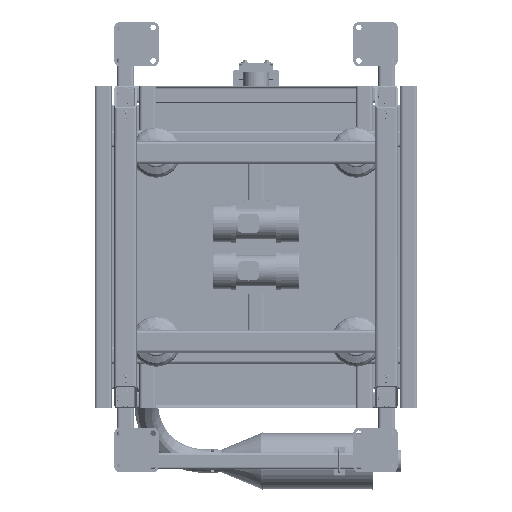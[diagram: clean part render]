
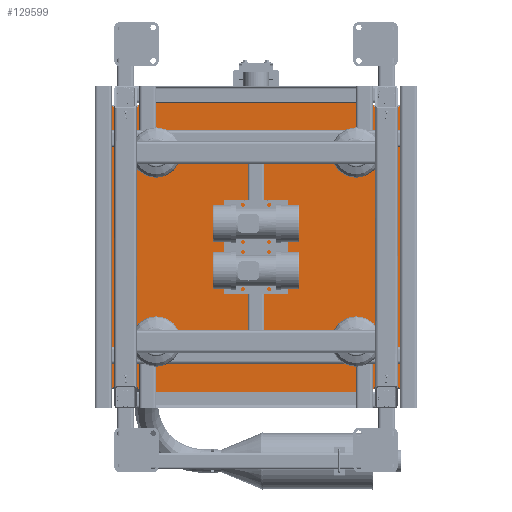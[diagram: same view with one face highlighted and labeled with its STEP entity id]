
A CAD part, front view. The second image highlights one B-rep face of the part: STEP entity #129599.
In plain terms, the highlighted planar face has unit normal (0, -1, 0).
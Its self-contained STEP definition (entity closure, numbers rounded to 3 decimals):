
#13528=CIRCLE('',#140009,1.);
#13530=CIRCLE('',#140013,1.);
#13532=CIRCLE('',#140017,1.);
#13534=CIRCLE('',#140021,1.);
#13536=CIRCLE('',#140025,1.);
#13538=CIRCLE('',#140029,1.);
#13540=CIRCLE('',#140033,1.);
#13542=CIRCLE('',#140037,1.);
#20927=FACE_OUTER_BOUND('',#29600,.T.);
#29600=EDGE_LOOP('',(#97238,#97239,#97240,#97241,#97242,#97243,#97244,#97245,
#97246,#97247,#97248,#97249,#97250,#97251,#97252,#97253,#97254,#97255,#97256,
#97257,#97258,#97259,#97260,#97261,#97262,#97263,#97264,#97265));
#39850=LINE('',#199740,#49647);
#39853=LINE('',#199751,#49650);
#39859=LINE('',#199767,#49656);
#39862=LINE('',#199778,#49659);
#39868=LINE('',#199794,#49665);
#39872=LINE('',#199806,#49669);
#39877=LINE('',#199821,#49674);
#39881=LINE('',#199833,#49678);
#39882=LINE('',#199836,#49679);
#39885=LINE('',#199842,#49682);
#39888=LINE('',#199848,#49685);
#39891=LINE('',#199854,#49688);
#39894=LINE('',#199860,#49691);
#39899=LINE('',#199869,#49696);
#39900=LINE('',#199872,#49697);
#39901=LINE('',#199873,#49698);
#39902=LINE('',#199874,#49699);
#39903=LINE('',#199876,#49700);
#39904=LINE('',#199877,#49701);
#39905=LINE('',#199878,#49702);
#49647=VECTOR('',#160788,3.);
#49650=VECTOR('',#160799,3.);
#49656=VECTOR('',#160813,3.);
#49659=VECTOR('',#160824,3.);
#49665=VECTOR('',#160838,3.);
#49669=VECTOR('',#160850,3.);
#49674=VECTOR('',#160863,3.);
#49678=VECTOR('',#160875,3.);
#49679=VECTOR('',#160878,3.);
#49682=VECTOR('',#160883,3.);
#49685=VECTOR('',#160888,3.);
#49688=VECTOR('',#160893,3.);
#49691=VECTOR('',#160898,3.);
#49696=VECTOR('',#160905,3.);
#49697=VECTOR('',#160908,3.);
#49698=VECTOR('',#160909,58.);
#49699=VECTOR('',#160910,42.);
#49700=VECTOR('',#160911,58.);
#49701=VECTOR('',#160912,3.);
#49702=VECTOR('',#160913,42.);
#59895=VERTEX_POINT('',#199730);
#59896=VERTEX_POINT('',#199732);
#59898=VERTEX_POINT('',#199738);
#59901=VERTEX_POINT('',#199745);
#59902=VERTEX_POINT('',#199747);
#59905=VERTEX_POINT('',#199757);
#59906=VERTEX_POINT('',#199759);
#59908=VERTEX_POINT('',#199765);
#59911=VERTEX_POINT('',#199772);
#59912=VERTEX_POINT('',#199774);
#59915=VERTEX_POINT('',#199784);
#59916=VERTEX_POINT('',#199786);
#59918=VERTEX_POINT('',#199792);
#59920=VERTEX_POINT('',#199798);
#59922=VERTEX_POINT('',#199804);
#59925=VERTEX_POINT('',#199811);
#59926=VERTEX_POINT('',#199813);
#59928=VERTEX_POINT('',#199819);
#59930=VERTEX_POINT('',#199825);
#59932=VERTEX_POINT('',#199831);
#59933=VERTEX_POINT('',#199835);
#59935=VERTEX_POINT('',#199841);
#59937=VERTEX_POINT('',#199847);
#59939=VERTEX_POINT('',#199853);
#59941=VERTEX_POINT('',#199859);
#59944=VERTEX_POINT('',#199867);
#59945=VERTEX_POINT('',#199871);
#59946=VERTEX_POINT('',#199875);
#73742=EDGE_CURVE('',#59895,#59896,#13528,.T.);
#73746=EDGE_CURVE('',#59895,#59898,#39850,.T.);
#73749=EDGE_CURVE('',#59901,#59902,#13530,.T.);
#73751=EDGE_CURVE('',#59901,#59896,#39853,.T.);
#73755=EDGE_CURVE('',#59905,#59906,#13532,.T.);
#73759=EDGE_CURVE('',#59905,#59908,#39859,.T.);
#73762=EDGE_CURVE('',#59911,#59912,#13534,.T.);
#73764=EDGE_CURVE('',#59911,#59906,#39862,.T.);
#73768=EDGE_CURVE('',#59915,#59916,#13536,.T.);
#73772=EDGE_CURVE('',#59915,#59918,#39868,.T.);
#73775=EDGE_CURVE('',#59920,#59918,#13538,.T.);
#73778=EDGE_CURVE('',#59920,#59922,#39872,.T.);
#73781=EDGE_CURVE('',#59925,#59926,#13540,.T.);
#73785=EDGE_CURVE('',#59925,#59928,#39877,.T.);
#73788=EDGE_CURVE('',#59930,#59928,#13542,.T.);
#73791=EDGE_CURVE('',#59930,#59932,#39881,.T.);
#73792=EDGE_CURVE('',#59933,#59902,#39882,.T.);
#73795=EDGE_CURVE('',#59935,#59916,#39885,.T.);
#73798=EDGE_CURVE('',#59937,#59926,#39888,.T.);
#73801=EDGE_CURVE('',#59939,#59912,#39891,.T.);
#73804=EDGE_CURVE('',#59937,#59941,#39894,.T.);
#73809=EDGE_CURVE('',#59944,#59922,#39899,.T.);
#73810=EDGE_CURVE('',#59945,#59898,#39900,.T.);
#73811=EDGE_CURVE('',#59941,#59945,#39901,.T.);
#73812=EDGE_CURVE('',#59935,#59932,#39902,.T.);
#73813=EDGE_CURVE('',#59946,#59944,#39903,.T.);
#73814=EDGE_CURVE('',#59939,#59946,#39904,.T.);
#73815=EDGE_CURVE('',#59933,#59908,#39905,.T.);
#97238=ORIENTED_EDGE('',*,*,#73792,.T.);
#97239=ORIENTED_EDGE('',*,*,#73749,.F.);
#97240=ORIENTED_EDGE('',*,*,#73751,.T.);
#97241=ORIENTED_EDGE('',*,*,#73742,.F.);
#97242=ORIENTED_EDGE('',*,*,#73746,.T.);
#97243=ORIENTED_EDGE('',*,*,#73810,.F.);
#97244=ORIENTED_EDGE('',*,*,#73811,.F.);
#97245=ORIENTED_EDGE('',*,*,#73804,.F.);
#97246=ORIENTED_EDGE('',*,*,#73798,.T.);
#97247=ORIENTED_EDGE('',*,*,#73781,.F.);
#97248=ORIENTED_EDGE('',*,*,#73785,.T.);
#97249=ORIENTED_EDGE('',*,*,#73788,.F.);
#97250=ORIENTED_EDGE('',*,*,#73791,.T.);
#97251=ORIENTED_EDGE('',*,*,#73812,.F.);
#97252=ORIENTED_EDGE('',*,*,#73795,.T.);
#97253=ORIENTED_EDGE('',*,*,#73768,.F.);
#97254=ORIENTED_EDGE('',*,*,#73772,.T.);
#97255=ORIENTED_EDGE('',*,*,#73775,.F.);
#97256=ORIENTED_EDGE('',*,*,#73778,.T.);
#97257=ORIENTED_EDGE('',*,*,#73809,.F.);
#97258=ORIENTED_EDGE('',*,*,#73813,.F.);
#97259=ORIENTED_EDGE('',*,*,#73814,.F.);
#97260=ORIENTED_EDGE('',*,*,#73801,.T.);
#97261=ORIENTED_EDGE('',*,*,#73762,.F.);
#97262=ORIENTED_EDGE('',*,*,#73764,.T.);
#97263=ORIENTED_EDGE('',*,*,#73755,.F.);
#97264=ORIENTED_EDGE('',*,*,#73759,.T.);
#97265=ORIENTED_EDGE('',*,*,#73815,.F.);
#124484=PLANE('',#140045);
#129599=ADVANCED_FACE('',(#20927),#124484,.F.);
#140009=AXIS2_PLACEMENT_3D('',#199733,#160781,#160782);
#140013=AXIS2_PLACEMENT_3D('',#199748,#160794,#160795);
#140017=AXIS2_PLACEMENT_3D('',#199760,#160806,#160807);
#140021=AXIS2_PLACEMENT_3D('',#199775,#160819,#160820);
#140025=AXIS2_PLACEMENT_3D('',#199787,#160831,#160832);
#140029=AXIS2_PLACEMENT_3D('',#199800,#160844,#160845);
#140033=AXIS2_PLACEMENT_3D('',#199814,#160856,#160857);
#140037=AXIS2_PLACEMENT_3D('',#199827,#160869,#160870);
#140045=AXIS2_PLACEMENT_3D('',#199870,#160906,#160907);
#160781=DIRECTION('center_axis',(0.,-1.,0.));
#160782=DIRECTION('ref_axis',(0.707,0.,0.707));
#160788=DIRECTION('',(0.,0.,-1.));
#160794=DIRECTION('center_axis',(0.,-1.,0.));
#160795=DIRECTION('ref_axis',(-0.707,0.,0.707));
#160799=DIRECTION('',(1.,0.,0.));
#160806=DIRECTION('center_axis',(0.,-1.,0.));
#160807=DIRECTION('ref_axis',(0.707,0.,0.707));
#160813=DIRECTION('',(0.,0.,-1.));
#160819=DIRECTION('center_axis',(0.,-1.,0.));
#160820=DIRECTION('ref_axis',(-0.707,0.,0.707));
#160824=DIRECTION('',(1.,0.,0.));
#160831=DIRECTION('center_axis',(0.,-1.,0.));
#160832=DIRECTION('ref_axis',(0.707,0.,-0.707));
#160838=DIRECTION('',(-1.,0.,0.));
#160844=DIRECTION('center_axis',(0.,-1.,0.));
#160845=DIRECTION('ref_axis',(-0.707,0.,-0.707));
#160850=DIRECTION('',(0.,0.,1.));
#160856=DIRECTION('center_axis',(0.,-1.,0.));
#160857=DIRECTION('ref_axis',(0.707,0.,-0.707));
#160863=DIRECTION('',(-1.,0.,0.));
#160869=DIRECTION('center_axis',(0.,-1.,0.));
#160870=DIRECTION('ref_axis',(-0.707,0.,-0.707));
#160875=DIRECTION('',(0.,0.,1.));
#160878=DIRECTION('',(0.,0.,1.));
#160883=DIRECTION('',(0.,0.,-1.));
#160888=DIRECTION('',(0.,0.,-1.));
#160893=DIRECTION('',(0.,0.,1.));
#160898=DIRECTION('',(1.,0.,0.));
#160905=DIRECTION('',(1.,0.,0.));
#160906=DIRECTION('center_axis',(0.,1.,0.));
#160907=DIRECTION('ref_axis',(0.,0.,1.));
#160908=DIRECTION('',(-1.,0.,0.));
#160909=DIRECTION('',(0.,0.,-1.));
#160910=DIRECTION('',(1.,0.,0.));
#160911=DIRECTION('',(0.,0.,1.));
#160912=DIRECTION('',(-1.,0.,0.));
#160913=DIRECTION('',(-1.,0.,0.));
#199730=CARTESIAN_POINT('',(26.,0.,-26.));
#199732=CARTESIAN_POINT('',(25.,0.,-25.));
#199733=CARTESIAN_POINT('Origin',(25.,0.,-26.));
#199738=CARTESIAN_POINT('',(26.,0.,-29.));
#199740=CARTESIAN_POINT('',(26.,0.,-14.5));
#199745=CARTESIAN_POINT('',(22.,0.,-25.));
#199747=CARTESIAN_POINT('',(21.,0.,-26.));
#199748=CARTESIAN_POINT('Origin',(22.,0.,-26.));
#199751=CARTESIAN_POINT('',(13.,0.,-25.));
#199757=CARTESIAN_POINT('',(-21.,0.,-26.));
#199759=CARTESIAN_POINT('',(-22.,0.,-25.));
#199760=CARTESIAN_POINT('Origin',(-22.,0.,-26.));
#199765=CARTESIAN_POINT('',(-21.,0.,-29.));
#199767=CARTESIAN_POINT('',(-21.,0.,-14.5));
#199772=CARTESIAN_POINT('',(-25.,0.,-25.));
#199774=CARTESIAN_POINT('',(-26.,0.,-26.));
#199775=CARTESIAN_POINT('Origin',(-25.,0.,-26.));
#199778=CARTESIAN_POINT('',(-10.5,0.,-25.));
#199784=CARTESIAN_POINT('',(-22.,0.,25.));
#199786=CARTESIAN_POINT('',(-21.,0.,26.));
#199787=CARTESIAN_POINT('Origin',(-22.,0.,26.));
#199792=CARTESIAN_POINT('',(-25.,0.,25.));
#199794=CARTESIAN_POINT('',(-13.,0.,25.));
#199798=CARTESIAN_POINT('',(-26.,0.,26.));
#199800=CARTESIAN_POINT('Origin',(-25.,0.,26.));
#199804=CARTESIAN_POINT('',(-26.,0.,29.));
#199806=CARTESIAN_POINT('',(-26.,0.,14.5));
#199811=CARTESIAN_POINT('',(25.,0.,25.));
#199813=CARTESIAN_POINT('',(26.,0.,26.));
#199814=CARTESIAN_POINT('Origin',(25.,0.,26.));
#199819=CARTESIAN_POINT('',(22.,0.,25.));
#199821=CARTESIAN_POINT('',(10.5,0.,25.));
#199825=CARTESIAN_POINT('',(21.,0.,26.));
#199827=CARTESIAN_POINT('Origin',(22.,0.,26.));
#199831=CARTESIAN_POINT('',(21.,0.,29.));
#199833=CARTESIAN_POINT('',(21.,0.,14.5));
#199835=CARTESIAN_POINT('',(21.,0.,-29.));
#199836=CARTESIAN_POINT('',(21.,0.,-12.5));
#199841=CARTESIAN_POINT('',(-21.,0.,29.));
#199842=CARTESIAN_POINT('',(-21.,0.,12.5));
#199847=CARTESIAN_POINT('',(26.,0.,29.));
#199848=CARTESIAN_POINT('',(26.,0.,12.5));
#199853=CARTESIAN_POINT('',(-26.,0.,-29.));
#199854=CARTESIAN_POINT('',(-26.,0.,-12.5));
#199859=CARTESIAN_POINT('',(29.,0.,29.));
#199860=CARTESIAN_POINT('',(-29.,0.,29.));
#199867=CARTESIAN_POINT('',(-29.,0.,29.));
#199869=CARTESIAN_POINT('',(-29.,0.,29.));
#199870=CARTESIAN_POINT('Origin',(0.,0.,0.));
#199871=CARTESIAN_POINT('',(29.,0.,-29.));
#199872=CARTESIAN_POINT('',(29.,0.,-29.));
#199873=CARTESIAN_POINT('',(29.,0.,29.));
#199874=CARTESIAN_POINT('',(-29.,0.,29.));
#199875=CARTESIAN_POINT('',(-29.,0.,-29.));
#199876=CARTESIAN_POINT('',(-29.,0.,-29.));
#199877=CARTESIAN_POINT('',(29.,0.,-29.));
#199878=CARTESIAN_POINT('',(29.,0.,-29.));
